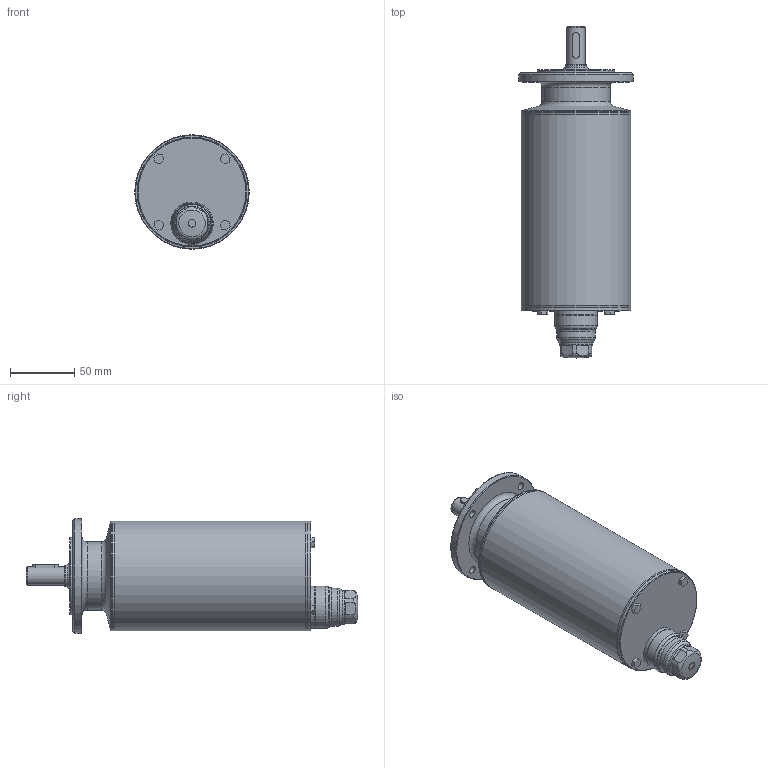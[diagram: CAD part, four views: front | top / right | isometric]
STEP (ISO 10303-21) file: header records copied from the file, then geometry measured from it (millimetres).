
FILE_DESCRIPTION((''),'2;1');
FILE_NAME('C:\Autodesk Vault\AUTODESK_VAULT\CAD\000-FERTIG Motors\EM-Motoren\EM070\_Gesamtbaugruppen\Step\HD\AM8833-0x10-xxxx_14.02.2013.stp','2013-02-14T09:18:43',('kathrinV'),(''),'Autodesk Inventor 2013','Autodesk Inventor 2013','');
FILE_SCHEMA(('AUTOMOTIVE_DESIGN { 1 0 10303 214 1 1 1 1 }'));
Length unit declared in the file: millimetre
Products named in the file (5): EM070-HD-VM; EM070-HD-VM-00; EM070-LB0-EKx36-HD-VM; M20-HD-VM; DIN 6885-A5x5x20
Assembly tree (4 placements, depth 3):
  EM070-HD-VM
    EM070-HD-VM-00
      EM070-LB0-EKx36-HD-VM
      M20-HD-VM
    DIN 6885-A5x5x20
Bounding box: 89 x 258.03 x 89 mm (x, y, z)
Volume: 1020852.3 mm3; surface area: 72862.9 mm2
Topology: 3 solids, 3 shells, 112 faces, 262 edges, 166 vertices
Faces by surface type: plane 54, cylinder 31, torus 17, cone 10
Full cylindrical faces by diameter (mm): 6 x5, 14 x1, 17 x1, 20 x1, 30 x1, 33 x2, 53 x1, 60 x1, 84.8 x1, 85 x2, 89 x1
Entity records: 3389 total; most frequent: CARTESIAN_POINT 785, DIRECTION 500, ORIENTED_EDGE 422, EDGE_CURVE 211, AXIS2_PLACEMENT_3D 198, EDGE_LOOP 174, VERTEX_POINT 159, FACE_OUTER_BOUND 112
